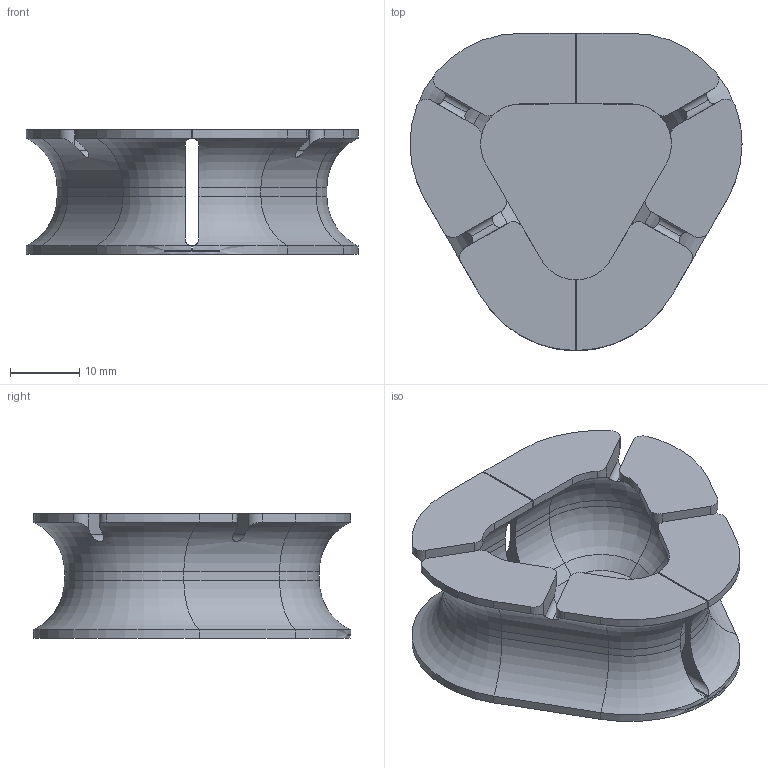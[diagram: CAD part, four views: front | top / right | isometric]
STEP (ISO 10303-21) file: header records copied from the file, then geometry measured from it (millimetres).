
FILE_DESCRIPTION (( 'STEP AP214' ), '1' );
FILE_NAME ('Earbud Case v1-4 MEDIUM.STEP', '2018-04-27T23:14:19', ( '' ), ( '' ), 'SwSTEP 2.0', 'SolidWorks 2015', '' );
FILE_SCHEMA (( 'AUTOMOTIVE_DESIGN' ));
Length unit declared in the file: millimetre
Products named in the file (2): Earbud Case v1-4 MEDIUM
Bounding box: 48 x 45.86 x 18 mm (x, y, z)
Volume: 8736.5 mm3; surface area: 8919.7 mm2
Topology: 1 solids, 1 shells, 175 faces, 462 edges, 289 vertices
Faces by surface type: cylinder 85, plane 67, torus 18, cone 5
Entity records: 5940 total; most frequent: CARTESIAN_POINT 1618, ORIENTED_EDGE 924, DIRECTION 881, EDGE_CURVE 462, AXIS2_PLACEMENT_3D 324, VERTEX_POINT 289, VECTOR 233, LINE 233
